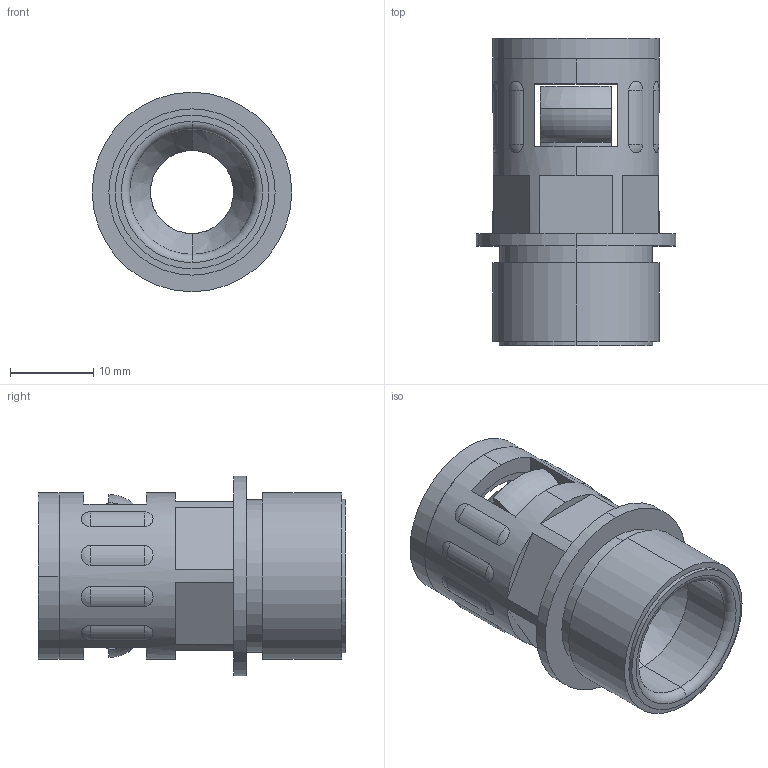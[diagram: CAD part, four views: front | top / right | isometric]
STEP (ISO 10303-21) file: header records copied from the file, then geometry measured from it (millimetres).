
FILE_DESCRIPTION (( 'STEP AP203' ), '1' );
FILE_NAME ('WQG-M20-AD13.STEP', '2018-09-04T02:54:07', ( '' ), ( '' ), 'SwSTEP 2.0', 'SolidWorks 2016', '' );
FILE_SCHEMA (( 'CONFIG_CONTROL_DESIGN' ));
Length unit declared in the file: millimetre
Products named in the file (4): GFD-AD13.0; WQG-M20-AD13; WQG-M20-AD13.0-01; NSK-AD13.0
Assembly tree (3 placements, depth 2):
  WQG-M20-AD13
    WQG-M20-AD13.0-01
    GFD-AD13.0
    NSK-AD13.0
Bounding box: 24 x 37 x 24 mm (x, y, z)
Volume: 4704.3 mm3; surface area: 7300.8 mm2
Topology: 2 solids, 5 shells, 183 faces, 485 edges, 304 vertices
Faces by surface type: cone 59, plane 54, cylinder 34, torus 20, sphere 16
Entity records: 6347 total; most frequent: CARTESIAN_POINT 1511, DIRECTION 981, ORIENTED_EDGE 898, EDGE_CURVE 453, AXIS2_PLACEMENT_3D 406, VERTEX_POINT 288, CIRCLE 216, EDGE_LOOP 207
